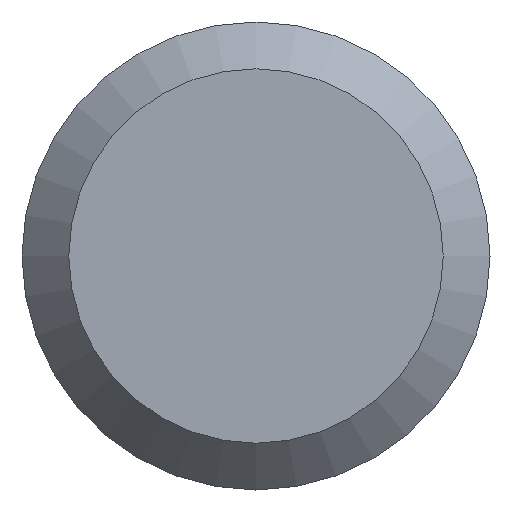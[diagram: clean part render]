
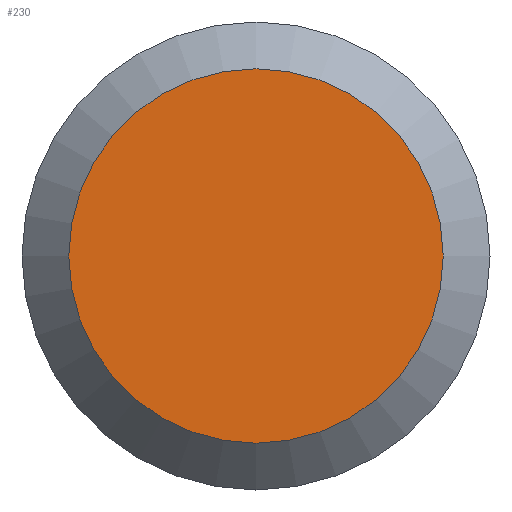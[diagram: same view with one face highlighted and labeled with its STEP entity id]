
A CAD part, left-side view. The second image highlights one B-rep face of the part: STEP entity #230.
In plain terms, the highlighted planar face has unit normal (-1, 0, 0).
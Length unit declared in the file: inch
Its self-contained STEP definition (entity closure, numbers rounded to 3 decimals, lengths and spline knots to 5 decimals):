
#18 = ORIENTED_EDGE ( 'NONE', *, *, #186, .T. ) ;
#24 = AXIS2_PLACEMENT_3D ( 'NONE', #236, #227, #90 ) ;
#33 = DIRECTION ( 'NONE',  ( -1., 0., 0. ) ) ;
#56 = VERTEX_POINT ( 'NONE', #93 ) ;
#77 = EDGE_LOOP ( 'NONE', ( #18 ) ) ;
#90 = DIRECTION ( 'NONE',  ( 0., 0., -1. ) ) ;
#93 = CARTESIAN_POINT ( 'NONE',  ( 0., 0., -0.0636 ) ) ;
#116 = DIRECTION ( 'NONE',  ( 0., 0., -1. ) ) ;
#130 = CARTESIAN_POINT ( 'NONE',  ( 0., 0., 0. ) ) ;
#173 = FACE_OUTER_BOUND ( 'NONE', #77, .T. ) ;
#177 = CIRCLE ( 'NONE', #229, 0.0636 ) ;
#186 = EDGE_CURVE ( 'NONE', #56, #56, #177, .T. ) ;
#199 = PLANE ( 'NONE',  #24 ) ;
#227 = DIRECTION ( 'NONE',  ( 1., 0., 0. ) ) ;
#229 = AXIS2_PLACEMENT_3D ( 'NONE', #130, #33, #116 ) ;
#230 = ADVANCED_FACE ( 'NONE', ( #173 ), #199, .F. ) ;
#236 = CARTESIAN_POINT ( 'NONE',  ( 0., 0.0795, 0. ) ) ;
